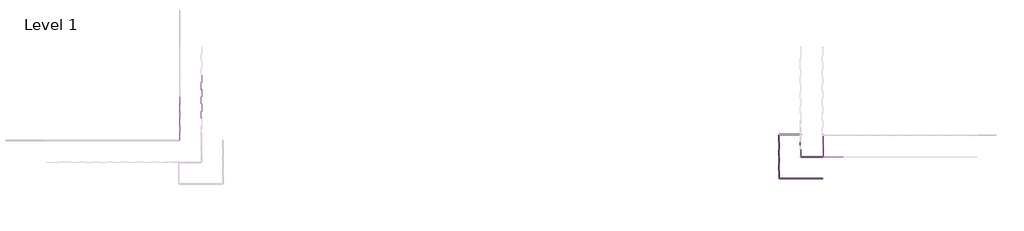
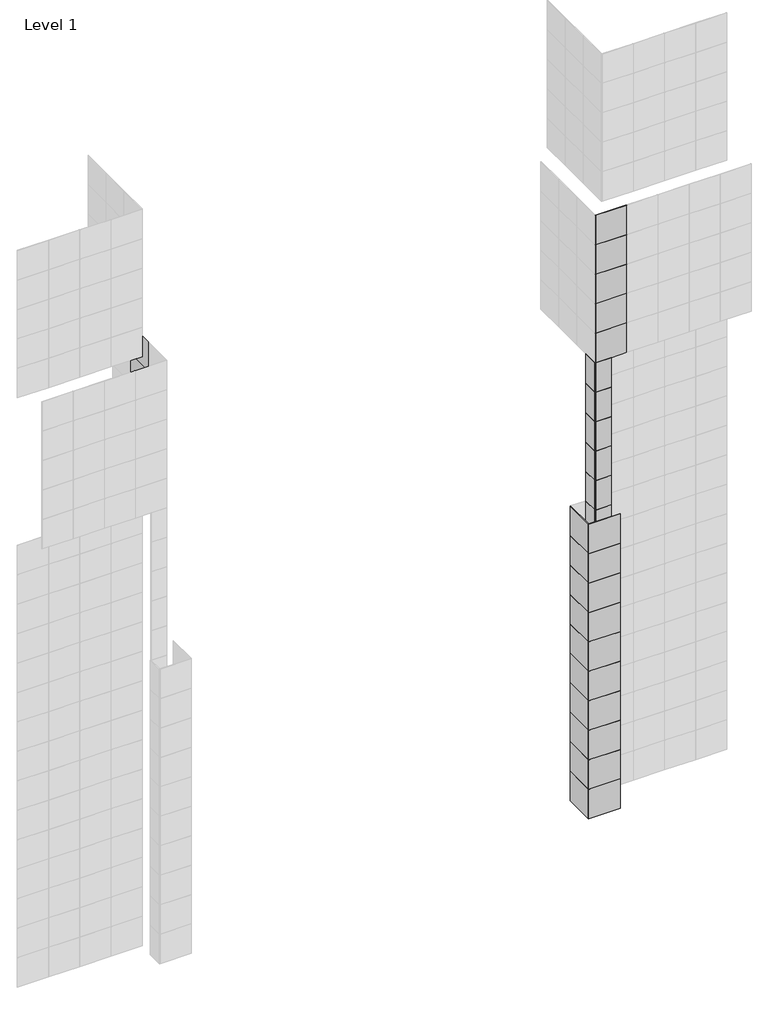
# One storey, part 4 of 15: 135 plates.
"""IFC4 building model written with IfcOpenShell, lengths in millimetres."""

from ifc_helpers import new_model, si_unit, origin, place, context, project, spatial, transform, mapped, element, save
from components import system_panel_glazed_9c75bc08, system_panel_glazed_0a0842ec, system_panel_glazed_aa64d645, system_panel_glazed_b248394d, system_panel_glazed_d5d3c74f

model = new_model("IFC4")

# Units and contexts
model_context = context("Model", 3, world=origin())
ifc_project = project(units=[si_unit("LENGTHUNIT", "METRE", prefix="MILLI")], contexts=[model_context])

# Site, building, storey
site = spatial("IfcSite", under=ifc_project)
building = spatial("IfcBuilding", under=site)
storey = spatial("IfcBuildingStorey", under=building, Name="Level 1", Elevation=0.0)

# Plates
placement = place(None, origin())
system_panel_glazed_shape = system_panel_glazed_9c75bc08(model_context)
element("IfcPlate", 1, ObjectType="System Panel : Glazed", at=placement, inside=storey, context=model_context, shape_type="MappedRepresentation", body=[
    mapped(system_panel_glazed_shape, transform((37356.2903978, -5364.9095598, 0.0), x_axis=(1.0, 0.0, 0.0), y_axis=(0.0, 1.0, 0.0), z_axis=(0.0, 0.0, 1.0))),
])
element("IfcPlate", 2, ObjectType="System Panel : Glazed", at=placement, inside=storey, context=model_context, shape_type="MappedRepresentation", body=[
    mapped(system_panel_glazed_shape, transform((37356.2903978, -5364.9095598, 3048.0), x_axis=(1.0, 0.0, 0.0), y_axis=(0.0, 1.0, 0.0), z_axis=(0.0, 0.0, 1.0))),
])
element("IfcPlate", 3, ObjectType="System Panel : Glazed", at=placement, inside=storey, context=model_context, shape_type="MappedRepresentation", body=[
    mapped(system_panel_glazed_shape, transform((37356.2903978, -5364.9095598, 6096.0), x_axis=(1.0, 0.0, 0.0), y_axis=(0.0, 1.0, 0.0), z_axis=(0.0, 0.0, 1.0))),
])
element("IfcPlate", 4, ObjectType="System Panel : Glazed", at=placement, inside=storey, context=model_context, shape_type="MappedRepresentation", body=[
    mapped(system_panel_glazed_shape, transform((37356.2903978, -5364.9095598, 9144.0), x_axis=(1.0, 0.0, 0.0), y_axis=(0.0, 1.0, 0.0), z_axis=(0.0, 0.0, 1.0))),
])
element("IfcPlate", 5, ObjectType="System Panel : Glazed", at=placement, inside=storey, context=model_context, shape_type="MappedRepresentation", body=[
    mapped(system_panel_glazed_shape, transform((37356.2903978, -5364.9095598, 12192.0), x_axis=(1.0, 0.0, 0.0), y_axis=(0.0, 1.0, 0.0), z_axis=(0.0, 0.0, 1.0))),
])
element("IfcPlate", 6, ObjectType="System Panel : Glazed", at=placement, inside=storey, context=model_context, shape_type="MappedRepresentation", body=[
    mapped(system_panel_glazed_shape, transform((37356.2903978, -5364.9095598, 15240.0), x_axis=(1.0, 0.0, 0.0), y_axis=(0.0, 1.0, 0.0), z_axis=(0.0, 0.0, 1.0))),
])
element("IfcPlate", 7, ObjectType="System Panel : Glazed", at=placement, inside=storey, context=model_context, shape_type="MappedRepresentation", body=[
    mapped(system_panel_glazed_shape, transform((37356.2903978, -5364.9095598, 18288.0), x_axis=(1.0, 0.0, 0.0), y_axis=(0.0, 1.0, 0.0), z_axis=(0.0, 0.0, 1.0))),
])
element("IfcPlate", 8, ObjectType="System Panel : Glazed", at=placement, inside=storey, context=model_context, shape_type="MappedRepresentation", body=[
    mapped(system_panel_glazed_shape, transform((37356.2903978, -5364.9095598, 21336.0), x_axis=(1.0, 0.0, 0.0), y_axis=(0.0, 1.0, 0.0), z_axis=(0.0, 0.0, 1.0))),
])
element("IfcPlate", 9, ObjectType="System Panel : Glazed", at=placement, inside=storey, context=model_context, shape_type="MappedRepresentation", body=[
    mapped(system_panel_glazed_shape, transform((37356.2903978, -5364.9095598, 24384.0), x_axis=(1.0, 0.0, 0.0), y_axis=(0.0, 1.0, 0.0), z_axis=(0.0, 0.0, 1.0))),
])
element("IfcPlate", 10, ObjectType="System Panel : Glazed", at=placement, inside=storey, context=model_context, shape_type="MappedRepresentation", body=[
    mapped(system_panel_glazed_shape, transform((37356.2903978, -5364.9095598, 27432.0), x_axis=(1.0, 0.0, 0.0), y_axis=(0.0, 1.0, 0.0), z_axis=(0.0, 0.0, 1.0))),
])
element("IfcPlate", 11, ObjectType="System Panel : Glazed", at=placement, inside=storey, context=model_context, shape_type="MappedRepresentation", body=[
    mapped(system_panel_glazed_shape, transform((37356.2903978, -5364.9095598, 30480.0), x_axis=(1.0, 0.0, 0.0), y_axis=(0.0, 1.0, 0.0), z_axis=(0.0, 0.0, 1.0))),
])
element("IfcPlate", 12, ObjectType="System Panel : Glazed", at=placement, inside=storey, context=model_context, shape_type="MappedRepresentation", body=[
    mapped(system_panel_glazed_shape, transform((37356.2903978, -5364.9095598, 33528.0), x_axis=(1.0, 0.0, 0.0), y_axis=(0.0, 1.0, 0.0), z_axis=(0.0, 0.0, 1.0))),
])
element("IfcPlate", 13, ObjectType="System Panel : Glazed", at=placement, inside=storey, context=model_context, shape_type="MappedRepresentation", body=[
    mapped(system_panel_glazed_shape, transform((37356.2903978, -5364.9095598, 36576.0), x_axis=(1.0, 0.0, 0.0), y_axis=(0.0, 1.0, 0.0), z_axis=(0.0, 0.0, 1.0))),
])
element("IfcPlate", 14, ObjectType="System Panel : Glazed", at=placement, inside=storey, context=model_context, shape_type="MappedRepresentation", body=[
    mapped(system_panel_glazed_shape, transform((37356.2903978, -5364.9095598, 39624.0), x_axis=(1.0, 0.0, 0.0), y_axis=(0.0, 1.0, 0.0), z_axis=(0.0, 0.0, 1.0))),
])
element("IfcPlate", 15, ObjectType="System Panel : Glazed", at=placement, inside=storey, context=model_context, shape_type="MappedRepresentation", body=[
    mapped(system_panel_glazed_shape, transform((37356.2903978, -5364.9095598, 42672.0), x_axis=(1.0, 0.0, 0.0), y_axis=(0.0, 1.0, 0.0), z_axis=(0.0, 0.0, 1.0))),
])
element("IfcPlate", 16, ObjectType="System Panel : Glazed", at=placement, inside=storey, context=model_context, shape_type="MappedRepresentation", body=[
    mapped(system_panel_glazed_shape, transform((36594.2903978, -4602.9095598, 0.0), x_axis=(0.0, -1.0, 0.0), y_axis=(1.0, 0.0, 0.0), z_axis=(0.0, 0.0, 1.0))),
])
element("IfcPlate", 17, ObjectType="System Panel : Glazed", at=placement, inside=storey, context=model_context, shape_type="MappedRepresentation", body=[
    mapped(system_panel_glazed_shape, transform((36594.2903978, -4602.9095598, 3048.0), x_axis=(0.0, -1.0, 0.0), y_axis=(1.0, 0.0, 0.0), z_axis=(0.0, 0.0, 1.0))),
])
element("IfcPlate", 18, ObjectType="System Panel : Glazed", at=placement, inside=storey, context=model_context, shape_type="MappedRepresentation", body=[
    mapped(system_panel_glazed_shape, transform((36594.2903978, -4602.9095598, 6096.0), x_axis=(0.0, -1.0, 0.0), y_axis=(1.0, 0.0, 0.0), z_axis=(0.0, 0.0, 1.0))),
])
element("IfcPlate", 19, ObjectType="System Panel : Glazed", at=placement, inside=storey, context=model_context, shape_type="MappedRepresentation", body=[
    mapped(system_panel_glazed_shape, transform((36594.2903978, -4602.9095598, 9144.0), x_axis=(0.0, -1.0, 0.0), y_axis=(1.0, 0.0, 0.0), z_axis=(0.0, 0.0, 1.0))),
])
element("IfcPlate", 20, ObjectType="System Panel : Glazed", at=placement, inside=storey, context=model_context, shape_type="MappedRepresentation", body=[
    mapped(system_panel_glazed_shape, transform((36594.2903978, -4602.9095598, 12192.0), x_axis=(0.0, -1.0, 0.0), y_axis=(1.0, 0.0, 0.0), z_axis=(0.0, 0.0, 1.0))),
])
element("IfcPlate", 21, ObjectType="System Panel : Glazed", at=placement, inside=storey, context=model_context, shape_type="MappedRepresentation", body=[
    mapped(system_panel_glazed_shape, transform((36594.2903978, -4602.9095598, 15240.0), x_axis=(0.0, -1.0, 0.0), y_axis=(1.0, 0.0, 0.0), z_axis=(0.0, 0.0, 1.0))),
])
element("IfcPlate", 22, ObjectType="System Panel : Glazed", at=placement, inside=storey, context=model_context, shape_type="MappedRepresentation", body=[
    mapped(system_panel_glazed_shape, transform((36594.2903978, -4602.9095598, 18288.0), x_axis=(0.0, -1.0, 0.0), y_axis=(1.0, 0.0, 0.0), z_axis=(0.0, 0.0, 1.0))),
])
element("IfcPlate", 23, ObjectType="System Panel : Glazed", at=placement, inside=storey, context=model_context, shape_type="MappedRepresentation", body=[
    mapped(system_panel_glazed_shape, transform((36594.2903978, -4602.9095598, 21336.0), x_axis=(0.0, -1.0, 0.0), y_axis=(1.0, 0.0, 0.0), z_axis=(0.0, 0.0, 1.0))),
])
element("IfcPlate", 24, ObjectType="System Panel : Glazed", at=placement, inside=storey, context=model_context, shape_type="MappedRepresentation", body=[
    mapped(system_panel_glazed_shape, transform((36594.2903978, -4602.9095598, 24384.0), x_axis=(0.0, -1.0, 0.0), y_axis=(1.0, 0.0, 0.0), z_axis=(0.0, 0.0, 1.0))),
])
element("IfcPlate", 25, ObjectType="System Panel : Glazed", at=placement, inside=storey, context=model_context, shape_type="MappedRepresentation", body=[
    mapped(system_panel_glazed_shape, transform((36594.2903978, -4602.9095598, 27432.0), x_axis=(0.0, -1.0, 0.0), y_axis=(1.0, 0.0, 0.0), z_axis=(0.0, 0.0, 1.0))),
])
element("IfcPlate", 26, ObjectType="System Panel : Glazed", at=placement, inside=storey, context=model_context, shape_type="MappedRepresentation", body=[
    mapped(system_panel_glazed_shape, transform((36594.2903978, -4602.9095598, 30480.0), x_axis=(0.0, -1.0, 0.0), y_axis=(1.0, 0.0, 0.0), z_axis=(0.0, 0.0, 1.0))),
])
element("IfcPlate", 27, ObjectType="System Panel : Glazed", at=placement, inside=storey, context=model_context, shape_type="MappedRepresentation", body=[
    mapped(system_panel_glazed_shape, transform((36594.2903978, -4602.9095598, 33528.0), x_axis=(0.0, -1.0, 0.0), y_axis=(1.0, 0.0, 0.0), z_axis=(0.0, 0.0, 1.0))),
])
element("IfcPlate", 28, ObjectType="System Panel : Glazed", at=placement, inside=storey, context=model_context, shape_type="MappedRepresentation", body=[
    mapped(system_panel_glazed_shape, transform((36594.2903978, -4602.9095598, 36576.0), x_axis=(0.0, -1.0, 0.0), y_axis=(1.0, 0.0, 0.0), z_axis=(0.0, 0.0, 1.0))),
])
element("IfcPlate", 29, ObjectType="System Panel : Glazed", at=placement, inside=storey, context=model_context, shape_type="MappedRepresentation", body=[
    mapped(system_panel_glazed_shape, transform((36594.2903978, -4602.9095598, 39624.0), x_axis=(0.0, -1.0, 0.0), y_axis=(1.0, 0.0, 0.0), z_axis=(0.0, 0.0, 1.0))),
])
element("IfcPlate", 30, ObjectType="System Panel : Glazed", at=placement, inside=storey, context=model_context, shape_type="MappedRepresentation", body=[
    mapped(system_panel_glazed_shape, transform((36594.2903978, -4602.9095598, 42672.0), x_axis=(0.0, -1.0, 0.0), y_axis=(1.0, 0.0, 0.0), z_axis=(0.0, 0.0, 1.0))),
])
element("IfcPlate", 31, ObjectType="System Panel : Glazed", at=placement, inside=storey, context=model_context, shape_type="MappedRepresentation", body=[
    mapped(system_panel_glazed_shape, transform((36594.2903978, -4602.9095598, 0.0), x_axis=(0.0, -1.0, 0.0), y_axis=(1.0, 0.0, 0.0), z_axis=(0.0, 0.0, 1.0))),
])
element("IfcPlate", 32, ObjectType="System Panel : Glazed", at=placement, inside=storey, context=model_context, shape_type="MappedRepresentation", body=[
    mapped(system_panel_glazed_shape, transform((36594.2903978, -4602.9095598, 3048.0), x_axis=(0.0, -1.0, 0.0), y_axis=(1.0, 0.0, 0.0), z_axis=(0.0, 0.0, 1.0))),
])
element("IfcPlate", 33, ObjectType="System Panel : Glazed", at=placement, inside=storey, context=model_context, shape_type="MappedRepresentation", body=[
    mapped(system_panel_glazed_shape, transform((36594.2903978, -4602.9095598, 6096.0), x_axis=(0.0, -1.0, 0.0), y_axis=(1.0, 0.0, 0.0), z_axis=(0.0, 0.0, 1.0))),
])
element("IfcPlate", 34, ObjectType="System Panel : Glazed", at=placement, inside=storey, context=model_context, shape_type="MappedRepresentation", body=[
    mapped(system_panel_glazed_shape, transform((36594.2903978, -4602.9095598, 9144.0), x_axis=(0.0, -1.0, 0.0), y_axis=(1.0, 0.0, 0.0), z_axis=(0.0, 0.0, 1.0))),
])
element("IfcPlate", 35, ObjectType="System Panel : Glazed", at=placement, inside=storey, context=model_context, shape_type="MappedRepresentation", body=[
    mapped(system_panel_glazed_shape, transform((36594.2903978, -4602.9095598, 12192.0), x_axis=(0.0, -1.0, 0.0), y_axis=(1.0, 0.0, 0.0), z_axis=(0.0, 0.0, 1.0))),
])
element("IfcPlate", 36, ObjectType="System Panel : Glazed", at=placement, inside=storey, context=model_context, shape_type="MappedRepresentation", body=[
    mapped(system_panel_glazed_shape, transform((36594.2903978, -4602.9095598, 15240.0), x_axis=(0.0, -1.0, 0.0), y_axis=(1.0, 0.0, 0.0), z_axis=(0.0, 0.0, 1.0))),
])
element("IfcPlate", 37, ObjectType="System Panel : Glazed", at=placement, inside=storey, context=model_context, shape_type="MappedRepresentation", body=[
    mapped(system_panel_glazed_shape, transform((36594.2903978, -4602.9095598, 18288.0), x_axis=(0.0, -1.0, 0.0), y_axis=(1.0, 0.0, 0.0), z_axis=(0.0, 0.0, 1.0))),
])
element("IfcPlate", 38, ObjectType="System Panel : Glazed", at=placement, inside=storey, context=model_context, shape_type="MappedRepresentation", body=[
    mapped(system_panel_glazed_shape, transform((36594.2903978, -4602.9095598, 21336.0), x_axis=(0.0, -1.0, 0.0), y_axis=(1.0, 0.0, 0.0), z_axis=(0.0, 0.0, 1.0))),
])
element("IfcPlate", 39, ObjectType="System Panel : Glazed", at=placement, inside=storey, context=model_context, shape_type="MappedRepresentation", body=[
    mapped(system_panel_glazed_shape, transform((36594.2903978, -4602.9095598, 24384.0), x_axis=(0.0, -1.0, 0.0), y_axis=(1.0, 0.0, 0.0), z_axis=(0.0, 0.0, 1.0))),
])
element("IfcPlate", 40, ObjectType="System Panel : Glazed", at=placement, inside=storey, context=model_context, shape_type="MappedRepresentation", body=[
    mapped(system_panel_glazed_shape, transform((36594.2903978, -4602.9095598, 27432.0), x_axis=(0.0, -1.0, 0.0), y_axis=(1.0, 0.0, 0.0), z_axis=(0.0, 0.0, 1.0))),
])
element("IfcPlate", 41, ObjectType="System Panel : Glazed", at=placement, inside=storey, context=model_context, shape_type="MappedRepresentation", body=[
    mapped(system_panel_glazed_shape, transform((36594.2903978, -4602.9095598, 30480.0), x_axis=(0.0, -1.0, 0.0), y_axis=(1.0, 0.0, 0.0), z_axis=(0.0, 0.0, 1.0))),
])
element("IfcPlate", 42, ObjectType="System Panel : Glazed", at=placement, inside=storey, context=model_context, shape_type="MappedRepresentation", body=[
    mapped(system_panel_glazed_shape, transform((36594.2903978, -4602.9095598, 33528.0), x_axis=(0.0, -1.0, 0.0), y_axis=(1.0, 0.0, 0.0), z_axis=(0.0, 0.0, 1.0))),
])
element("IfcPlate", 43, ObjectType="System Panel : Glazed", at=placement, inside=storey, context=model_context, shape_type="MappedRepresentation", body=[
    mapped(system_panel_glazed_shape, transform((36594.2903978, -4602.9095598, 36576.0), x_axis=(0.0, -1.0, 0.0), y_axis=(1.0, 0.0, 0.0), z_axis=(0.0, 0.0, 1.0))),
])
element("IfcPlate", 44, ObjectType="System Panel : Glazed", at=placement, inside=storey, context=model_context, shape_type="MappedRepresentation", body=[
    mapped(system_panel_glazed_shape, transform((36594.2903978, -4602.9095598, 39624.0), x_axis=(0.0, -1.0, 0.0), y_axis=(1.0, 0.0, 0.0), z_axis=(0.0, 0.0, 1.0))),
])
element("IfcPlate", 45, ObjectType="System Panel : Glazed", at=placement, inside=storey, context=model_context, shape_type="MappedRepresentation", body=[
    mapped(system_panel_glazed_shape, transform((36594.2903978, -4602.9095598, 42672.0), x_axis=(0.0, -1.0, 0.0), y_axis=(1.0, 0.0, 0.0), z_axis=(0.0, 0.0, 1.0))),
])
element("IfcPlate", 46, ObjectType="System Panel : Glazed", at=placement, inside=storey, context=model_context, shape_type="MappedRepresentation", body=[
    mapped(system_panel_glazed_shape, transform((35832.2903978, -3840.9095598, 0.0), x_axis=(-1.0, 0.0, 0.0), y_axis=(0.0, -1.0, 0.0), z_axis=(0.0, 0.0, 1.0))),
])
element("IfcPlate", 47, ObjectType="System Panel : Glazed", at=placement, inside=storey, context=model_context, shape_type="MappedRepresentation", body=[
    mapped(system_panel_glazed_shape, transform((35832.2903978, -3840.9095598, 3048.0), x_axis=(-1.0, 0.0, 0.0), y_axis=(0.0, -1.0, 0.0), z_axis=(0.0, 0.0, 1.0))),
])
system_panel_glazed_2_shape = system_panel_glazed_0a0842ec(model_context)
element("IfcPlate", 48, ObjectType="System Panel : Glazed", at=placement, inside=storey, context=model_context, shape_type="MappedRepresentation", body=[
    mapped(system_panel_glazed_2_shape, transform((38118.2903978, -5364.9095598, 45720.0), x_axis=(1.0, 0.0, 0.0), y_axis=(0.0, 1.0, 0.0), z_axis=(0.0, 0.0, 1.0))),
])
system_panel_glazed_3_shape = system_panel_glazed_aa64d645(model_context)
element("IfcPlate", 49, ObjectType="System Panel : Glazed", at=placement, inside=storey, context=model_context, shape_type="MappedRepresentation", body=[
    mapped(system_panel_glazed_3_shape, transform((-5599.4161695, -1170.0504489, 45720.0), x_axis=(0.0, 1.0, 0.0), y_axis=(-1.0, 0.0, 0.0), z_axis=(0.0, 0.0, 1.0))),
])
element("IfcPlate", 50, ObjectType="System Panel : Glazed", at=placement, inside=storey, context=model_context, shape_type="MappedRepresentation", body=[
    mapped(system_panel_glazed_3_shape, transform((-5599.4161695, -1170.0504489, 48768.0), x_axis=(0.0, 1.0, 0.0), y_axis=(-1.0, 0.0, 0.0), z_axis=(0.0, 0.0, 1.0))),
])
element("IfcPlate", 51, ObjectType="System Panel : Glazed", at=placement, inside=storey, context=model_context, shape_type="MappedRepresentation", body=[
    mapped(system_panel_glazed_3_shape, transform((-5599.4161695, -1170.0504489, 51816.0), x_axis=(0.0, 1.0, 0.0), y_axis=(-1.0, 0.0, 0.0), z_axis=(0.0, 0.0, 1.0))),
])
element("IfcPlate", 52, ObjectType="System Panel : Glazed", at=placement, inside=storey, context=model_context, shape_type="MappedRepresentation", body=[
    mapped(system_panel_glazed_3_shape, transform((-5599.4161695, -1170.0504489, 54864.0), x_axis=(0.0, 1.0, 0.0), y_axis=(-1.0, 0.0, 0.0), z_axis=(0.0, 0.0, 1.0))),
])
element("IfcPlate", 53, ObjectType="System Panel : Glazed", at=placement, inside=storey, context=model_context, shape_type="MappedRepresentation", body=[
    mapped(system_panel_glazed_3_shape, transform((-5599.4161695, -1170.0504489, 57912.0), x_axis=(0.0, 1.0, 0.0), y_axis=(-1.0, 0.0, 0.0), z_axis=(0.0, 0.0, 1.0))),
])
element("IfcPlate", 54, ObjectType="System Panel : Glazed", at=placement, inside=storey, context=model_context, shape_type="MappedRepresentation", body=[
    mapped(system_panel_glazed_3_shape, transform((38118.2903978, -5364.9095598, 48768.0), x_axis=(1.0, 0.0, 0.0), y_axis=(0.0, 1.0, 0.0), z_axis=(0.0, 0.0, 1.0))),
])
element("IfcPlate", 55, ObjectType="System Panel : Glazed", at=placement, inside=storey, context=model_context, shape_type="MappedRepresentation", body=[
    mapped(system_panel_glazed_3_shape, transform((38118.2903978, -5364.9095598, 51816.0), x_axis=(1.0, 0.0, 0.0), y_axis=(0.0, 1.0, 0.0), z_axis=(0.0, 0.0, 1.0))),
])
element("IfcPlate", 56, ObjectType="System Panel : Glazed", at=placement, inside=storey, context=model_context, shape_type="MappedRepresentation", body=[
    mapped(system_panel_glazed_3_shape, transform((38118.2903978, -5364.9095598, 54864.0), x_axis=(1.0, 0.0, 0.0), y_axis=(0.0, 1.0, 0.0), z_axis=(0.0, 0.0, 1.0))),
])
element("IfcPlate", 57, ObjectType="System Panel : Glazed", at=placement, inside=storey, context=model_context, shape_type="MappedRepresentation", body=[
    mapped(system_panel_glazed_3_shape, transform((38118.2903978, -5364.9095598, 57912.0), x_axis=(1.0, 0.0, 0.0), y_axis=(0.0, 1.0, 0.0), z_axis=(0.0, 0.0, 1.0))),
])
element("IfcPlate", 58, ObjectType="System Panel : Glazed", at=placement, inside=storey, context=model_context, shape_type="MappedRepresentation", body=[
    mapped(system_panel_glazed_3_shape, transform((36594.2903978, -6888.9095598, 0.0), x_axis=(1.0, 0.0, 0.0), y_axis=(0.0, 1.0, 0.0), z_axis=(0.0, 0.0, 1.0))),
])
element("IfcPlate", 59, ObjectType="System Panel : Glazed", at=placement, inside=storey, context=model_context, shape_type="MappedRepresentation", body=[
    mapped(system_panel_glazed_3_shape, transform((36594.2903978, -6888.9095598, 3048.0), x_axis=(1.0, 0.0, 0.0), y_axis=(0.0, 1.0, 0.0), z_axis=(0.0, 0.0, 1.0))),
])
element("IfcPlate", 60, ObjectType="System Panel : Glazed", at=placement, inside=storey, context=model_context, shape_type="MappedRepresentation", body=[
    mapped(system_panel_glazed_3_shape, transform((36594.2903978, -6888.9095598, 6096.0), x_axis=(1.0, 0.0, 0.0), y_axis=(0.0, 1.0, 0.0), z_axis=(0.0, 0.0, 1.0))),
])
element("IfcPlate", 61, ObjectType="System Panel : Glazed", at=placement, inside=storey, context=model_context, shape_type="MappedRepresentation", body=[
    mapped(system_panel_glazed_3_shape, transform((36594.2903978, -6888.9095598, 9144.0), x_axis=(1.0, 0.0, 0.0), y_axis=(0.0, 1.0, 0.0), z_axis=(0.0, 0.0, 1.0))),
])
element("IfcPlate", 62, ObjectType="System Panel : Glazed", at=placement, inside=storey, context=model_context, shape_type="MappedRepresentation", body=[
    mapped(system_panel_glazed_3_shape, transform((36594.2903978, -6888.9095598, 12192.0), x_axis=(1.0, 0.0, 0.0), y_axis=(0.0, 1.0, 0.0), z_axis=(0.0, 0.0, 1.0))),
])
element("IfcPlate", 63, ObjectType="System Panel : Glazed", at=placement, inside=storey, context=model_context, shape_type="MappedRepresentation", body=[
    mapped(system_panel_glazed_3_shape, transform((36594.2903978, -6888.9095598, 15240.0), x_axis=(1.0, 0.0, 0.0), y_axis=(0.0, 1.0, 0.0), z_axis=(0.0, 0.0, 1.0))),
])
element("IfcPlate", 64, ObjectType="System Panel : Glazed", at=placement, inside=storey, context=model_context, shape_type="MappedRepresentation", body=[
    mapped(system_panel_glazed_3_shape, transform((36594.2903978, -6888.9095598, 18288.0), x_axis=(1.0, 0.0, 0.0), y_axis=(0.0, 1.0, 0.0), z_axis=(0.0, 0.0, 1.0))),
])
element("IfcPlate", 65, ObjectType="System Panel : Glazed", at=placement, inside=storey, context=model_context, shape_type="MappedRepresentation", body=[
    mapped(system_panel_glazed_3_shape, transform((36594.2903978, -6888.9095598, 21336.0), x_axis=(1.0, 0.0, 0.0), y_axis=(0.0, 1.0, 0.0), z_axis=(0.0, 0.0, 1.0))),
])
element("IfcPlate", 66, ObjectType="System Panel : Glazed", at=placement, inside=storey, context=model_context, shape_type="MappedRepresentation", body=[
    mapped(system_panel_glazed_3_shape, transform((36594.2903978, -6888.9095598, 24384.0), x_axis=(1.0, 0.0, 0.0), y_axis=(0.0, 1.0, 0.0), z_axis=(0.0, 0.0, 1.0))),
])
element("IfcPlate", 67, ObjectType="System Panel : Glazed", at=placement, inside=storey, context=model_context, shape_type="MappedRepresentation", body=[
    mapped(system_panel_glazed_3_shape, transform((36594.2903978, -6888.9095598, 27432.0), x_axis=(1.0, 0.0, 0.0), y_axis=(0.0, 1.0, 0.0), z_axis=(0.0, 0.0, 1.0))),
])
element("IfcPlate", 68, ObjectType="System Panel : Glazed", at=placement, inside=storey, context=model_context, shape_type="MappedRepresentation", body=[
    mapped(system_panel_glazed_3_shape, transform((35070.2903978, -5364.9095598, 0.0), x_axis=(0.0, -1.0, 0.0), y_axis=(1.0, 0.0, 0.0), z_axis=(0.0, 0.0, 1.0))),
])
element("IfcPlate", 69, ObjectType="System Panel : Glazed", at=placement, inside=storey, context=model_context, shape_type="MappedRepresentation", body=[
    mapped(system_panel_glazed_3_shape, transform((35070.2903978, -5364.9095598, 3048.0), x_axis=(0.0, -1.0, 0.0), y_axis=(1.0, 0.0, 0.0), z_axis=(0.0, 0.0, 1.0))),
])
element("IfcPlate", 70, ObjectType="System Panel : Glazed", at=placement, inside=storey, context=model_context, shape_type="MappedRepresentation", body=[
    mapped(system_panel_glazed_3_shape, transform((35070.2903978, -5364.9095598, 6096.0), x_axis=(0.0, -1.0, 0.0), y_axis=(1.0, 0.0, 0.0), z_axis=(0.0, 0.0, 1.0))),
])
element("IfcPlate", 71, ObjectType="System Panel : Glazed", at=placement, inside=storey, context=model_context, shape_type="MappedRepresentation", body=[
    mapped(system_panel_glazed_3_shape, transform((35070.2903978, -5364.9095598, 9144.0), x_axis=(0.0, -1.0, 0.0), y_axis=(1.0, 0.0, 0.0), z_axis=(0.0, 0.0, 1.0))),
])
element("IfcPlate", 72, ObjectType="System Panel : Glazed", at=placement, inside=storey, context=model_context, shape_type="MappedRepresentation", body=[
    mapped(system_panel_glazed_3_shape, transform((35070.2903978, -5364.9095598, 12192.0), x_axis=(0.0, -1.0, 0.0), y_axis=(1.0, 0.0, 0.0), z_axis=(0.0, 0.0, 1.0))),
])
element("IfcPlate", 73, ObjectType="System Panel : Glazed", at=placement, inside=storey, context=model_context, shape_type="MappedRepresentation", body=[
    mapped(system_panel_glazed_3_shape, transform((35070.2903978, -5364.9095598, 15240.0), x_axis=(0.0, -1.0, 0.0), y_axis=(1.0, 0.0, 0.0), z_axis=(0.0, 0.0, 1.0))),
])
element("IfcPlate", 74, ObjectType="System Panel : Glazed", at=placement, inside=storey, context=model_context, shape_type="MappedRepresentation", body=[
    mapped(system_panel_glazed_3_shape, transform((35070.2903978, -5364.9095598, 18288.0), x_axis=(0.0, -1.0, 0.0), y_axis=(1.0, 0.0, 0.0), z_axis=(0.0, 0.0, 1.0))),
])
element("IfcPlate", 75, ObjectType="System Panel : Glazed", at=placement, inside=storey, context=model_context, shape_type="MappedRepresentation", body=[
    mapped(system_panel_glazed_3_shape, transform((35070.2903978, -5364.9095598, 21336.0), x_axis=(0.0, -1.0, 0.0), y_axis=(1.0, 0.0, 0.0), z_axis=(0.0, 0.0, 1.0))),
])
element("IfcPlate", 76, ObjectType="System Panel : Glazed", at=placement, inside=storey, context=model_context, shape_type="MappedRepresentation", body=[
    mapped(system_panel_glazed_3_shape, transform((35070.2903978, -5364.9095598, 24384.0), x_axis=(0.0, -1.0, 0.0), y_axis=(1.0, 0.0, 0.0), z_axis=(0.0, 0.0, 1.0))),
])
element("IfcPlate", 77, ObjectType="System Panel : Glazed", at=placement, inside=storey, context=model_context, shape_type="MappedRepresentation", body=[
    mapped(system_panel_glazed_3_shape, transform((35070.2903978, -5364.9095598, 27432.0), x_axis=(0.0, -1.0, 0.0), y_axis=(1.0, 0.0, 0.0), z_axis=(0.0, 0.0, 1.0))),
])
element("IfcPlate", 78, ObjectType="System Panel : Glazed", at=placement, inside=storey, context=model_context, shape_type="MappedRepresentation", body=[
    mapped(system_panel_glazed_3_shape, transform((35070.2903978, -5364.9095598, 0.0), x_axis=(0.0, -1.0, 0.0), y_axis=(1.0, 0.0, 0.0), z_axis=(0.0, 0.0, 1.0))),
])
element("IfcPlate", 79, ObjectType="System Panel : Glazed", at=placement, inside=storey, context=model_context, shape_type="MappedRepresentation", body=[
    mapped(system_panel_glazed_3_shape, transform((35070.2903978, -5364.9095598, 3048.0), x_axis=(0.0, -1.0, 0.0), y_axis=(1.0, 0.0, 0.0), z_axis=(0.0, 0.0, 1.0))),
])
element("IfcPlate", 80, ObjectType="System Panel : Glazed", at=placement, inside=storey, context=model_context, shape_type="MappedRepresentation", body=[
    mapped(system_panel_glazed_3_shape, transform((35070.2903978, -5364.9095598, 6096.0), x_axis=(0.0, -1.0, 0.0), y_axis=(1.0, 0.0, 0.0), z_axis=(0.0, 0.0, 1.0))),
])
element("IfcPlate", 81, ObjectType="System Panel : Glazed", at=placement, inside=storey, context=model_context, shape_type="MappedRepresentation", body=[
    mapped(system_panel_glazed_3_shape, transform((35070.2903978, -5364.9095598, 9144.0), x_axis=(0.0, -1.0, 0.0), y_axis=(1.0, 0.0, 0.0), z_axis=(0.0, 0.0, 1.0))),
])
element("IfcPlate", 82, ObjectType="System Panel : Glazed", at=placement, inside=storey, context=model_context, shape_type="MappedRepresentation", body=[
    mapped(system_panel_glazed_3_shape, transform((35070.2903978, -5364.9095598, 12192.0), x_axis=(0.0, -1.0, 0.0), y_axis=(1.0, 0.0, 0.0), z_axis=(0.0, 0.0, 1.0))),
])
element("IfcPlate", 83, ObjectType="System Panel : Glazed", at=placement, inside=storey, context=model_context, shape_type="MappedRepresentation", body=[
    mapped(system_panel_glazed_3_shape, transform((35070.2903978, -5364.9095598, 15240.0), x_axis=(0.0, -1.0, 0.0), y_axis=(1.0, 0.0, 0.0), z_axis=(0.0, 0.0, 1.0))),
])
element("IfcPlate", 84, ObjectType="System Panel : Glazed", at=placement, inside=storey, context=model_context, shape_type="MappedRepresentation", body=[
    mapped(system_panel_glazed_3_shape, transform((35070.2903978, -5364.9095598, 18288.0), x_axis=(0.0, -1.0, 0.0), y_axis=(1.0, 0.0, 0.0), z_axis=(0.0, 0.0, 1.0))),
])
element("IfcPlate", 85, ObjectType="System Panel : Glazed", at=placement, inside=storey, context=model_context, shape_type="MappedRepresentation", body=[
    mapped(system_panel_glazed_3_shape, transform((35070.2903978, -5364.9095598, 21336.0), x_axis=(0.0, -1.0, 0.0), y_axis=(1.0, 0.0, 0.0), z_axis=(0.0, 0.0, 1.0))),
])
element("IfcPlate", 86, ObjectType="System Panel : Glazed", at=placement, inside=storey, context=model_context, shape_type="MappedRepresentation", body=[
    mapped(system_panel_glazed_3_shape, transform((35070.2903978, -5364.9095598, 24384.0), x_axis=(0.0, -1.0, 0.0), y_axis=(1.0, 0.0, 0.0), z_axis=(0.0, 0.0, 1.0))),
])
element("IfcPlate", 87, ObjectType="System Panel : Glazed", at=placement, inside=storey, context=model_context, shape_type="MappedRepresentation", body=[
    mapped(system_panel_glazed_3_shape, transform((35070.2903978, -5364.9095598, 27432.0), x_axis=(0.0, -1.0, 0.0), y_axis=(1.0, 0.0, 0.0), z_axis=(0.0, 0.0, 1.0))),
])
element("IfcPlate", 88, ObjectType="System Panel : Glazed", at=placement, inside=storey, context=model_context, shape_type="MappedRepresentation", body=[
    mapped(system_panel_glazed_3_shape, transform((35070.2903978, -5364.9095598, 0.0), x_axis=(0.0, -1.0, 0.0), y_axis=(1.0, 0.0, 0.0), z_axis=(0.0, 0.0, 1.0))),
])
element("IfcPlate", 89, ObjectType="System Panel : Glazed", at=placement, inside=storey, context=model_context, shape_type="MappedRepresentation", body=[
    mapped(system_panel_glazed_3_shape, transform((35070.2903978, -5364.9095598, 3048.0), x_axis=(0.0, -1.0, 0.0), y_axis=(1.0, 0.0, 0.0), z_axis=(0.0, 0.0, 1.0))),
])
element("IfcPlate", 90, ObjectType="System Panel : Glazed", at=placement, inside=storey, context=model_context, shape_type="MappedRepresentation", body=[
    mapped(system_panel_glazed_3_shape, transform((35070.2903978, -5364.9095598, 6096.0), x_axis=(0.0, -1.0, 0.0), y_axis=(1.0, 0.0, 0.0), z_axis=(0.0, 0.0, 1.0))),
])
element("IfcPlate", 91, ObjectType="System Panel : Glazed", at=placement, inside=storey, context=model_context, shape_type="MappedRepresentation", body=[
    mapped(system_panel_glazed_3_shape, transform((35070.2903978, -5364.9095598, 9144.0), x_axis=(0.0, -1.0, 0.0), y_axis=(1.0, 0.0, 0.0), z_axis=(0.0, 0.0, 1.0))),
])
element("IfcPlate", 92, ObjectType="System Panel : Glazed", at=placement, inside=storey, context=model_context, shape_type="MappedRepresentation", body=[
    mapped(system_panel_glazed_3_shape, transform((35070.2903978, -5364.9095598, 12192.0), x_axis=(0.0, -1.0, 0.0), y_axis=(1.0, 0.0, 0.0), z_axis=(0.0, 0.0, 1.0))),
])
element("IfcPlate", 93, ObjectType="System Panel : Glazed", at=placement, inside=storey, context=model_context, shape_type="MappedRepresentation", body=[
    mapped(system_panel_glazed_3_shape, transform((35070.2903978, -5364.9095598, 15240.0), x_axis=(0.0, -1.0, 0.0), y_axis=(1.0, 0.0, 0.0), z_axis=(0.0, 0.0, 1.0))),
])
element("IfcPlate", 94, ObjectType="System Panel : Glazed", at=placement, inside=storey, context=model_context, shape_type="MappedRepresentation", body=[
    mapped(system_panel_glazed_3_shape, transform((35070.2903978, -5364.9095598, 18288.0), x_axis=(0.0, -1.0, 0.0), y_axis=(1.0, 0.0, 0.0), z_axis=(0.0, 0.0, 1.0))),
])
element("IfcPlate", 95, ObjectType="System Panel : Glazed", at=placement, inside=storey, context=model_context, shape_type="MappedRepresentation", body=[
    mapped(system_panel_glazed_3_shape, transform((35070.2903978, -5364.9095598, 21336.0), x_axis=(0.0, -1.0, 0.0), y_axis=(1.0, 0.0, 0.0), z_axis=(0.0, 0.0, 1.0))),
])
element("IfcPlate", 96, ObjectType="System Panel : Glazed", at=placement, inside=storey, context=model_context, shape_type="MappedRepresentation", body=[
    mapped(system_panel_glazed_3_shape, transform((35070.2903978, -5364.9095598, 24384.0), x_axis=(0.0, -1.0, 0.0), y_axis=(1.0, 0.0, 0.0), z_axis=(0.0, 0.0, 1.0))),
])
element("IfcPlate", 97, ObjectType="System Panel : Glazed", at=placement, inside=storey, context=model_context, shape_type="MappedRepresentation", body=[
    mapped(system_panel_glazed_3_shape, transform((35070.2903978, -5364.9095598, 27432.0), x_axis=(0.0, -1.0, 0.0), y_axis=(1.0, 0.0, 0.0), z_axis=(0.0, 0.0, 1.0))),
])
element("IfcPlate", 98, ObjectType="System Panel : Glazed", at=placement, inside=storey, context=model_context, shape_type="MappedRepresentation", body=[
    mapped(system_panel_glazed_3_shape, transform((36594.2903978, -6888.9095598, 0.0), x_axis=(1.0, 0.0, 0.0), y_axis=(0.0, 1.0, 0.0), z_axis=(0.0, 0.0, 1.0))),
])
element("IfcPlate", 99, ObjectType="System Panel : Glazed", at=placement, inside=storey, context=model_context, shape_type="MappedRepresentation", body=[
    mapped(system_panel_glazed_3_shape, transform((36594.2903978, -6888.9095598, 3048.0), x_axis=(1.0, 0.0, 0.0), y_axis=(0.0, 1.0, 0.0), z_axis=(0.0, 0.0, 1.0))),
])
element("IfcPlate", 100, ObjectType="System Panel : Glazed", at=placement, inside=storey, context=model_context, shape_type="MappedRepresentation", body=[
    mapped(system_panel_glazed_3_shape, transform((36594.2903978, -6888.9095598, 6096.0), x_axis=(1.0, 0.0, 0.0), y_axis=(0.0, 1.0, 0.0), z_axis=(0.0, 0.0, 1.0))),
])
element("IfcPlate", 101, ObjectType="System Panel : Glazed", at=placement, inside=storey, context=model_context, shape_type="MappedRepresentation", body=[
    mapped(system_panel_glazed_3_shape, transform((36594.2903978, -6888.9095598, 9144.0), x_axis=(1.0, 0.0, 0.0), y_axis=(0.0, 1.0, 0.0), z_axis=(0.0, 0.0, 1.0))),
])
element("IfcPlate", 102, ObjectType="System Panel : Glazed", at=placement, inside=storey, context=model_context, shape_type="MappedRepresentation", body=[
    mapped(system_panel_glazed_3_shape, transform((36594.2903978, -6888.9095598, 12192.0), x_axis=(1.0, 0.0, 0.0), y_axis=(0.0, 1.0, 0.0), z_axis=(0.0, 0.0, 1.0))),
])
element("IfcPlate", 103, ObjectType="System Panel : Glazed", at=placement, inside=storey, context=model_context, shape_type="MappedRepresentation", body=[
    mapped(system_panel_glazed_3_shape, transform((36594.2903978, -6888.9095598, 15240.0), x_axis=(1.0, 0.0, 0.0), y_axis=(0.0, 1.0, 0.0), z_axis=(0.0, 0.0, 1.0))),
])
element("IfcPlate", 104, ObjectType="System Panel : Glazed", at=placement, inside=storey, context=model_context, shape_type="MappedRepresentation", body=[
    mapped(system_panel_glazed_3_shape, transform((36594.2903978, -6888.9095598, 18288.0), x_axis=(1.0, 0.0, 0.0), y_axis=(0.0, 1.0, 0.0), z_axis=(0.0, 0.0, 1.0))),
])
element("IfcPlate", 105, ObjectType="System Panel : Glazed", at=placement, inside=storey, context=model_context, shape_type="MappedRepresentation", body=[
    mapped(system_panel_glazed_3_shape, transform((36594.2903978, -6888.9095598, 21336.0), x_axis=(1.0, 0.0, 0.0), y_axis=(0.0, 1.0, 0.0), z_axis=(0.0, 0.0, 1.0))),
])
element("IfcPlate", 106, ObjectType="System Panel : Glazed", at=placement, inside=storey, context=model_context, shape_type="MappedRepresentation", body=[
    mapped(system_panel_glazed_3_shape, transform((36594.2903978, -6888.9095598, 24384.0), x_axis=(1.0, 0.0, 0.0), y_axis=(0.0, 1.0, 0.0), z_axis=(0.0, 0.0, 1.0))),
])
element("IfcPlate", 107, ObjectType="System Panel : Glazed", at=placement, inside=storey, context=model_context, shape_type="MappedRepresentation", body=[
    mapped(system_panel_glazed_3_shape, transform((36594.2903978, -6888.9095598, 27432.0), x_axis=(1.0, 0.0, 0.0), y_axis=(0.0, 1.0, 0.0), z_axis=(0.0, 0.0, 1.0))),
])
system_panel_glazed_4_shape = system_panel_glazed_b248394d(model_context)
element("IfcPlate", 108, ObjectType="System Panel : Glazed", at=placement, inside=storey, context=model_context, shape_type="MappedRepresentation", body=[
    mapped(system_panel_glazed_4_shape, transform((-7123.4161695, -2694.0504489, 6096.0), x_axis=(0.0, -1.0, 0.0), y_axis=(1.0, 0.0, 0.0), z_axis=(0.0, 0.0, 1.0))),
])
element("IfcPlate", 109, ObjectType="System Panel : Glazed", at=placement, inside=storey, context=model_context, shape_type="MappedRepresentation", body=[
    mapped(system_panel_glazed_4_shape, transform((-7123.4161695, -2694.0504489, 9144.0), x_axis=(0.0, -1.0, 0.0), y_axis=(1.0, 0.0, 0.0), z_axis=(0.0, 0.0, 1.0))),
])
element("IfcPlate", 110, ObjectType="System Panel : Glazed", at=placement, inside=storey, context=model_context, shape_type="MappedRepresentation", body=[
    mapped(system_panel_glazed_4_shape, transform((-7123.4161695, -2694.0504489, 12192.0), x_axis=(0.0, -1.0, 0.0), y_axis=(1.0, 0.0, 0.0), z_axis=(0.0, 0.0, 1.0))),
])
element("IfcPlate", 111, ObjectType="System Panel : Glazed", at=placement, inside=storey, context=model_context, shape_type="MappedRepresentation", body=[
    mapped(system_panel_glazed_4_shape, transform((-7123.4161695, -2694.0504489, 15240.0), x_axis=(0.0, -1.0, 0.0), y_axis=(1.0, 0.0, 0.0), z_axis=(0.0, 0.0, 1.0))),
])
element("IfcPlate", 112, ObjectType="System Panel : Glazed", at=placement, inside=storey, context=model_context, shape_type="MappedRepresentation", body=[
    mapped(system_panel_glazed_4_shape, transform((-7123.4161695, -2694.0504489, 18288.0), x_axis=(0.0, -1.0, 0.0), y_axis=(1.0, 0.0, 0.0), z_axis=(0.0, 0.0, 1.0))),
])
element("IfcPlate", 113, ObjectType="System Panel : Glazed", at=placement, inside=storey, context=model_context, shape_type="MappedRepresentation", body=[
    mapped(system_panel_glazed_4_shape, transform((-7123.4161695, -2694.0504489, 21336.0), x_axis=(0.0, -1.0, 0.0), y_axis=(1.0, 0.0, 0.0), z_axis=(0.0, 0.0, 1.0))),
])
element("IfcPlate", 114, ObjectType="System Panel : Glazed", at=placement, inside=storey, context=model_context, shape_type="MappedRepresentation", body=[
    mapped(system_panel_glazed_4_shape, transform((-7123.4161695, -2694.0504489, 24384.0), x_axis=(0.0, -1.0, 0.0), y_axis=(1.0, 0.0, 0.0), z_axis=(0.0, 0.0, 1.0))),
])
element("IfcPlate", 115, ObjectType="System Panel : Glazed", at=placement, inside=storey, context=model_context, shape_type="MappedRepresentation", body=[
    mapped(system_panel_glazed_4_shape, transform((-7123.4161695, -2694.0504489, 27432.0), x_axis=(0.0, -1.0, 0.0), y_axis=(1.0, 0.0, 0.0), z_axis=(0.0, 0.0, 1.0))),
])
element("IfcPlate", 116, ObjectType="System Panel : Glazed", at=placement, inside=storey, context=model_context, shape_type="MappedRepresentation", body=[
    mapped(system_panel_glazed_4_shape, transform((-7123.4161695, -2694.0504489, 30480.0), x_axis=(0.0, -1.0, 0.0), y_axis=(1.0, 0.0, 0.0), z_axis=(0.0, 0.0, 1.0))),
])
element("IfcPlate", 117, ObjectType="System Panel : Glazed", at=placement, inside=storey, context=model_context, shape_type="MappedRepresentation", body=[
    mapped(system_panel_glazed_4_shape, transform((-7123.4161695, -2694.0504489, 33528.0), x_axis=(0.0, -1.0, 0.0), y_axis=(1.0, 0.0, 0.0), z_axis=(0.0, 0.0, 1.0))),
])
element("IfcPlate", 118, ObjectType="System Panel : Glazed", at=placement, inside=storey, context=model_context, shape_type="MappedRepresentation", body=[
    mapped(system_panel_glazed_4_shape, transform((-7123.4161695, -2694.0504489, 36576.0), x_axis=(0.0, -1.0, 0.0), y_axis=(1.0, 0.0, 0.0), z_axis=(0.0, 0.0, 1.0))),
])
element("IfcPlate", 119, ObjectType="System Panel : Glazed", at=placement, inside=storey, context=model_context, shape_type="MappedRepresentation", body=[
    mapped(system_panel_glazed_4_shape, transform((-7123.4161695, -2694.0504489, 39624.0), x_axis=(0.0, -1.0, 0.0), y_axis=(1.0, 0.0, 0.0), z_axis=(0.0, 0.0, 1.0))),
])
element("IfcPlate", 120, ObjectType="System Panel : Glazed", at=placement, inside=storey, context=model_context, shape_type="MappedRepresentation", body=[
    mapped(system_panel_glazed_4_shape, transform((-7123.4161695, -2694.0504489, 42672.0), x_axis=(0.0, -1.0, 0.0), y_axis=(1.0, 0.0, 0.0), z_axis=(0.0, 0.0, 1.0))),
])
system_panel_glazed_5_shape = system_panel_glazed_d5d3c74f(model_context)
element("IfcPlate", 121, ObjectType="System Panel : Glazed", at=placement, inside=storey, context=model_context, shape_type="MappedRepresentation", body=[
    mapped(system_panel_glazed_5_shape, transform((38118.2903978, -4602.9095598, 0.0), x_axis=(0.0, -1.0, 0.0), y_axis=(1.0, 0.0, 0.0), z_axis=(0.0, 0.0, 1.0))),
])
element("IfcPlate", 122, ObjectType="System Panel : Glazed", at=placement, inside=storey, context=model_context, shape_type="MappedRepresentation", body=[
    mapped(system_panel_glazed_5_shape, transform((38118.2903978, -4602.9095598, 3048.0), x_axis=(0.0, -1.0, 0.0), y_axis=(1.0, 0.0, 0.0), z_axis=(0.0, 0.0, 1.0))),
])
element("IfcPlate", 123, ObjectType="System Panel : Glazed", at=placement, inside=storey, context=model_context, shape_type="MappedRepresentation", body=[
    mapped(system_panel_glazed_5_shape, transform((38118.2903978, -4602.9095598, 6096.0), x_axis=(0.0, -1.0, 0.0), y_axis=(1.0, 0.0, 0.0), z_axis=(0.0, 0.0, 1.0))),
])
element("IfcPlate", 124, ObjectType="System Panel : Glazed", at=placement, inside=storey, context=model_context, shape_type="MappedRepresentation", body=[
    mapped(system_panel_glazed_5_shape, transform((38118.2903978, -4602.9095598, 9144.0), x_axis=(0.0, -1.0, 0.0), y_axis=(1.0, 0.0, 0.0), z_axis=(0.0, 0.0, 1.0))),
])
element("IfcPlate", 125, ObjectType="System Panel : Glazed", at=placement, inside=storey, context=model_context, shape_type="MappedRepresentation", body=[
    mapped(system_panel_glazed_5_shape, transform((38118.2903978, -4602.9095598, 12192.0), x_axis=(0.0, -1.0, 0.0), y_axis=(1.0, 0.0, 0.0), z_axis=(0.0, 0.0, 1.0))),
])
element("IfcPlate", 126, ObjectType="System Panel : Glazed", at=placement, inside=storey, context=model_context, shape_type="MappedRepresentation", body=[
    mapped(system_panel_glazed_5_shape, transform((38118.2903978, -4602.9095598, 15240.0), x_axis=(0.0, -1.0, 0.0), y_axis=(1.0, 0.0, 0.0), z_axis=(0.0, 0.0, 1.0))),
])
element("IfcPlate", 127, ObjectType="System Panel : Glazed", at=placement, inside=storey, context=model_context, shape_type="MappedRepresentation", body=[
    mapped(system_panel_glazed_5_shape, transform((38118.2903978, -4602.9095598, 18288.0), x_axis=(0.0, -1.0, 0.0), y_axis=(1.0, 0.0, 0.0), z_axis=(0.0, 0.0, 1.0))),
])
element("IfcPlate", 128, ObjectType="System Panel : Glazed", at=placement, inside=storey, context=model_context, shape_type="MappedRepresentation", body=[
    mapped(system_panel_glazed_5_shape, transform((38118.2903978, -4602.9095598, 21336.0), x_axis=(0.0, -1.0, 0.0), y_axis=(1.0, 0.0, 0.0), z_axis=(0.0, 0.0, 1.0))),
])
element("IfcPlate", 129, ObjectType="System Panel : Glazed", at=placement, inside=storey, context=model_context, shape_type="MappedRepresentation", body=[
    mapped(system_panel_glazed_5_shape, transform((38118.2903978, -4602.9095598, 24384.0), x_axis=(0.0, -1.0, 0.0), y_axis=(1.0, 0.0, 0.0), z_axis=(0.0, 0.0, 1.0))),
])
element("IfcPlate", 130, ObjectType="System Panel : Glazed", at=placement, inside=storey, context=model_context, shape_type="MappedRepresentation", body=[
    mapped(system_panel_glazed_5_shape, transform((38118.2903978, -4602.9095598, 27432.0), x_axis=(0.0, -1.0, 0.0), y_axis=(1.0, 0.0, 0.0), z_axis=(0.0, 0.0, 1.0))),
])
element("IfcPlate", 131, ObjectType="System Panel : Glazed", at=placement, inside=storey, context=model_context, shape_type="MappedRepresentation", body=[
    mapped(system_panel_glazed_5_shape, transform((38118.2903978, -4602.9095598, 30480.0), x_axis=(0.0, -1.0, 0.0), y_axis=(1.0, 0.0, 0.0), z_axis=(0.0, 0.0, 1.0))),
])
element("IfcPlate", 132, ObjectType="System Panel : Glazed", at=placement, inside=storey, context=model_context, shape_type="MappedRepresentation", body=[
    mapped(system_panel_glazed_5_shape, transform((38118.2903978, -4602.9095598, 33528.0), x_axis=(0.0, -1.0, 0.0), y_axis=(1.0, 0.0, 0.0), z_axis=(0.0, 0.0, 1.0))),
])
element("IfcPlate", 133, ObjectType="System Panel : Glazed", at=placement, inside=storey, context=model_context, shape_type="MappedRepresentation", body=[
    mapped(system_panel_glazed_5_shape, transform((38118.2903978, -4602.9095598, 36576.0), x_axis=(0.0, -1.0, 0.0), y_axis=(1.0, 0.0, 0.0), z_axis=(0.0, 0.0, 1.0))),
])
element("IfcPlate", 134, ObjectType="System Panel : Glazed", at=placement, inside=storey, context=model_context, shape_type="MappedRepresentation", body=[
    mapped(system_panel_glazed_5_shape, transform((38118.2903978, -4602.9095598, 39624.0), x_axis=(0.0, -1.0, 0.0), y_axis=(1.0, 0.0, 0.0), z_axis=(0.0, 0.0, 1.0))),
])
element("IfcPlate", 135, ObjectType="System Panel : Glazed", at=placement, inside=storey, context=model_context, shape_type="MappedRepresentation", body=[
    mapped(system_panel_glazed_5_shape, transform((38118.2903978, -4602.9095598, 42672.0), x_axis=(0.0, -1.0, 0.0), y_axis=(1.0, 0.0, 0.0), z_axis=(0.0, 0.0, 1.0))),
])

save(model, "model.ifc")
